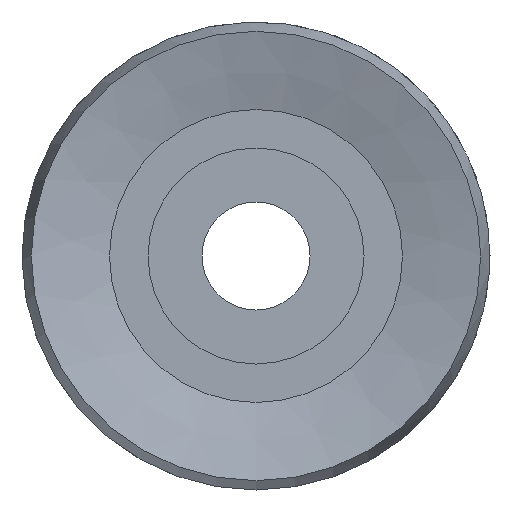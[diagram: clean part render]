
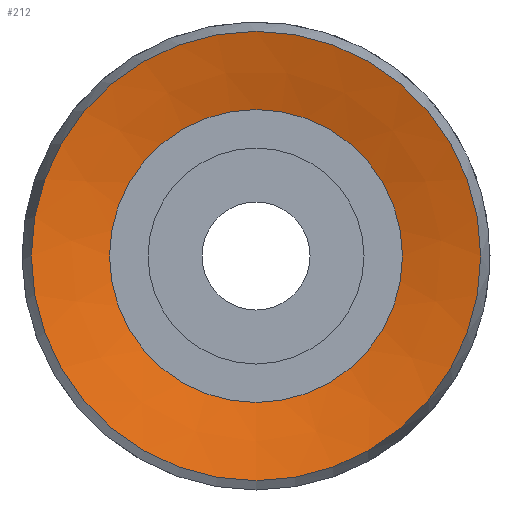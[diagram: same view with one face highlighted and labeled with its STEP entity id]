
A CAD part, left-side view. The second image highlights one B-rep face of the part: STEP entity #212.
In plain terms, the highlighted conical face has half-angle 75 degrees and reference radius 6.241 mm.
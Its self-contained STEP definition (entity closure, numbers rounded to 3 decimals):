
#212 = ADVANCED_FACE( '', ( #397, #398 ), #399, .F. );
#397 = FACE_BOUND( '', #605, .T. );
#398 = FACE_OUTER_BOUND( '', #606, .T. );
#399 = CONICAL_SURFACE( '', #607, 6.241, 1.309 );
#605 = EDGE_LOOP( '', ( #1221 ) );
#606 = EDGE_LOOP( '', ( #1222 ) );
#607 = AXIS2_PLACEMENT_3D( '', #1223, #1224, #1225 );
#1221 = ORIENTED_EDGE( '', *, *, #1546, .T. );
#1222 = ORIENTED_EDGE( '', *, *, #1547, .F. );
#1223 = CARTESIAN_POINT( '', ( -6.582, 0., 0. ) );
#1224 = DIRECTION( '', ( -1., 0., 0. ) );
#1225 = DIRECTION( '', ( 0., 0., 1. ) );
#1546 = EDGE_CURVE( '', #1873, #1873, #1874, .T. );
#1547 = EDGE_CURVE( '', #1875, #1875, #1876, .T. );
#1873 = VERTEX_POINT( '', #2261 );
#1874 = CIRCLE( '', #2262, 4.068 );
#1875 = VERTEX_POINT( '', #2263 );
#1876 = CIRCLE( '', #2264, 6.241 );
#2261 = CARTESIAN_POINT( '', ( -6., 0., -4.068 ) );
#2262 = AXIS2_PLACEMENT_3D( '', #2748, #2749, #2750 );
#2263 = CARTESIAN_POINT( '', ( -6.582, 0., -6.241 ) );
#2264 = AXIS2_PLACEMENT_3D( '', #2751, #2752, #2753 );
#2748 = CARTESIAN_POINT( '', ( -6., 0., 0. ) );
#2749 = DIRECTION( '', ( 1., 0., 0. ) );
#2750 = DIRECTION( '', ( 0., 0., -1. ) );
#2751 = CARTESIAN_POINT( '', ( -6.582, 0., 0. ) );
#2752 = DIRECTION( '', ( 1., 0., 0. ) );
#2753 = DIRECTION( '', ( 0., 0., -1. ) );
